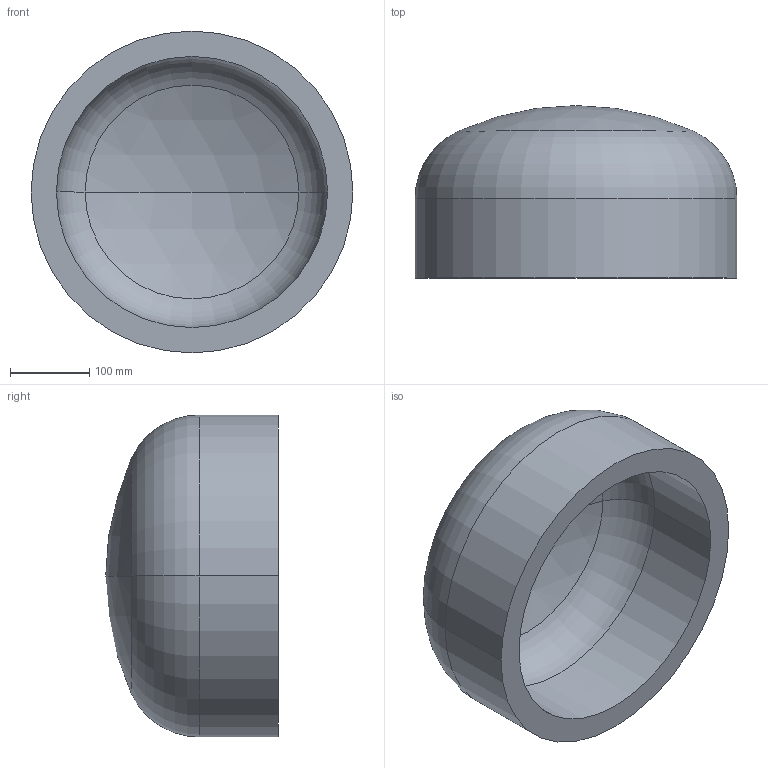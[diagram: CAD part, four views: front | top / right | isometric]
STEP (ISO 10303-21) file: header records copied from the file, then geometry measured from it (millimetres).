
FILE_DESCRIPTION (( 'STEP AP203' ), '1' );
FILE_NAME ('DIN 28013 Korbbogenform_-_Boden DIN 28013 - 406,4 x 100 - I - s=32.step', '2016-07-01T07:50:18', ( '' ), ( '' ), 'SwSTEP 2.0', 'SolidWorks 2013', '' );
FILE_SCHEMA (( 'CONFIG_CONTROL_DESIGN' ));
Length unit declared in the file: millimetre
Products named in the file (1): DIN 28013 Korbbogenform_-_Boden DIN 28013 - 406,4 x 100 - I - s=32
Bounding box: 406.4 x 217.74 x 406.4 mm (x, y, z)
Volume: 8961262.2 mm3; surface area: 599862.3 mm2
Topology: 1 solids, 1 shells, 13 faces, 24 edges, 14 vertices
Faces by surface type: torus 4, cylinder 4, sphere 4, plane 1
Entity records: 407 total; most frequent: DIRECTION 72, CARTESIAN_POINT 52, ORIENTED_EDGE 48, AXIS2_PLACEMENT_3D 34, EDGE_CURVE 24, CIRCLE 20, VERTEX_POINT 14, EDGE_LOOP 14
